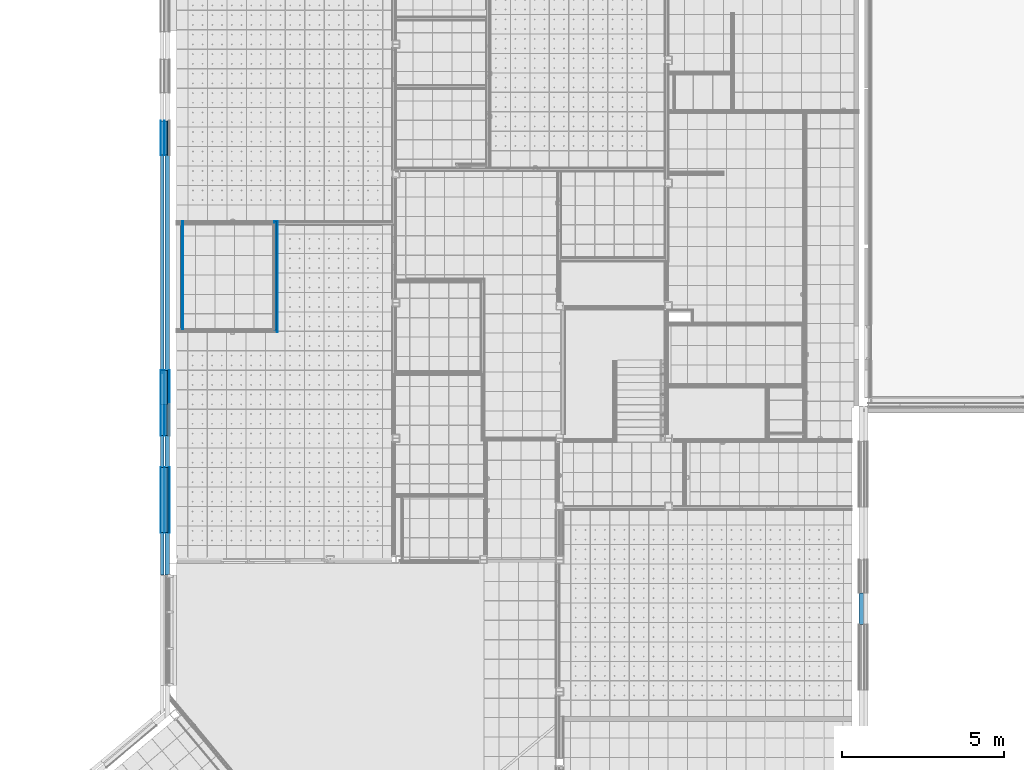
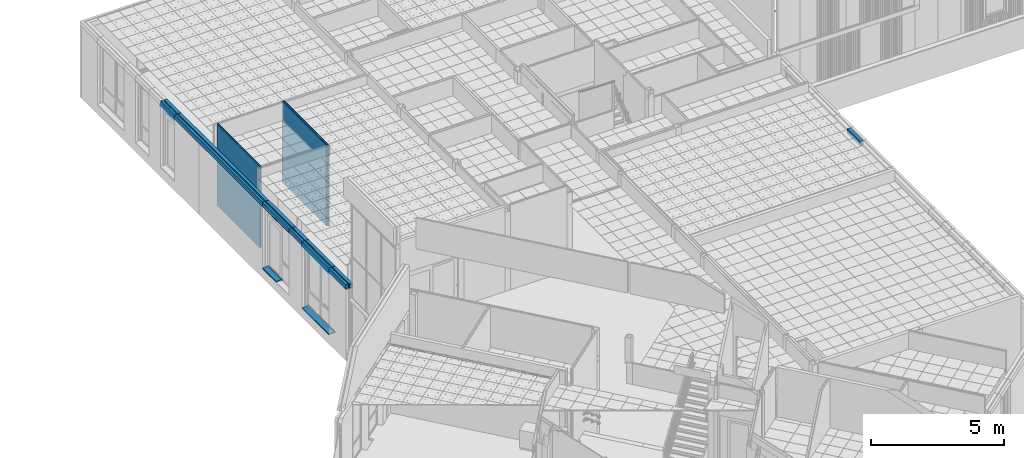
# One storey, part 75 of 338: 37 building element parts, 11 elements without a shape of their own.
"""IFC2X3 building model written with IfcOpenShell, lengths in millimetres."""

import ifcopenshell
import ifcopenshell.guid

model = None  # the IFC model being written
_history = None  # IfcOwnerHistory: only IFC2X3 demands one
_inside = {}  # id of a spatial element -> (the spatial element, [elements in it])
_under = {}  # id of a project, library or spatial element -> (it, [spatial elements below it])
_declared = {}  # id of a project -> (the project, [libraries it declares])
_typed = {}  # id of a type object -> (the type object, [elements of that type])
_made_of = {}  # id of a material, layer set ... -> (it, [elements and type objects made of it])


def new_model(schema):
    """Start an empty IFC model of exactly this schema.

    Asked for "IFC4X3", IfcOpenShell would pick the latest addendum, in which some entities
    have other attributes; the version numbers below select the first issue.
    IFC2X3 requires an IfcOwnerHistory on every rooted entity: one is made here for all.
    """
    global model, _history
    if schema == "IFC4X3":
        model = ifcopenshell.file(schema_version=(4, 3, 0, 0))
    else:
        model = ifcopenshell.file(schema=schema)
    _inside.clear()
    _under.clear()
    _declared.clear()
    _typed.clear()
    _made_of.clear()
    _history = None
    if model.schema == "IFC2X3":
        org = make("IfcOrganization", Name="unknown")
        user = make(
            "IfcPersonAndOrganization",
            ThePerson=make("IfcPerson", FamilyName="unknown"),
            TheOrganization=org,
        )
        app = make(
            "IfcApplication",
            ApplicationDeveloper=org,
            Version="unknown",
            ApplicationFullName="unknown",
            ApplicationIdentifier="unknown",
        )
        _history = make(
            "IfcOwnerHistory",
            OwningUser=user,
            OwningApplication=app,
            ChangeAction="ADDED",
            CreationDate=0,
        )
    return model


def make(cls, **values):
    """One entity of the class cls with the attributes given. An attribute that is None is left unset."""
    return model.create_entity(
        cls, **{name: value for name, value in values.items() if value is not None}
    )


def entity(cls, *values):
    """Any entity or typed value of the class cls, its attributes in the order of the schema. None: left unset."""
    e = model.create_entity(cls)
    for i, value in enumerate(values):
        if value is not None:
            e[i] = value
    return e


def rooted(cls, **values):
    """An entity with a GlobalId (a new one), such as an element, a storey or a relation."""
    return make(cls, GlobalId=ifcopenshell.guid.new(), OwnerHistory=_history, **values)


def si_unit(unit_type, name, prefix=None):
    """IfcSIUnit, for example si_unit("LENGTHUNIT", "METRE", prefix="MILLI")."""
    return make("IfcSIUnit", UnitType=unit_type, Prefix=prefix, Name=name)


def converted_unit(unit_type, name, factor, base, dimensions=None, offset=None):
    """IfcConversionBasedUnit, such as the inch: factor (a typed value) times the base unit."""
    return make(
        "IfcConversionBasedUnit"
        if offset is None
        else "IfcConversionBasedUnitWithOffset",
        ConversionOffset=offset,
        Dimensions=None
        if dimensions is None
        else entity("IfcDimensionalExponents", *dimensions),
        UnitType=unit_type,
        Name=name,
        ConversionFactor=make(
            "IfcMeasureWithUnit", ValueComponent=factor, UnitComponent=base
        ),
    )


def derived_unit(unit_type, elements):
    """IfcDerivedUnit: a product of units, each with its exponent."""
    return make(
        "IfcDerivedUnit",
        Elements=[
            make("IfcDerivedUnitElement", Unit=unit, Exponent=power)
            for unit, power in elements
        ],
        UnitType=unit_type,
    )


def money_unit(currency):
    """IfcMonetaryUnit."""
    return make("IfcMonetaryUnit", Currency=currency)


def assignment(units):
    """IfcUnitAssignment: the units of a project."""
    return None if units is None else make("IfcUnitAssignment", Units=units)


def point(xyz):
    """IfcCartesianPoint."""
    return None if xyz is None else make("IfcCartesianPoint", Coordinates=xyz)


def direction(xyz):
    """IfcDirection."""
    return None if xyz is None else make("IfcDirection", DirectionRatios=xyz)


def frame(location, z_axis=None, x_axis=None):
    """IfcAxis2Placement3D, a coordinate frame: its origin and axes. An axis left out is left unset."""
    return make(
        "IfcAxis2Placement3D",
        Location=point(location),
        Axis=direction(z_axis),
        RefDirection=direction(x_axis),
    )


def origin_with_axes():
    """The frame at (0, 0, 0) with the z axis (0, 0, 1) and the x axis (1, 0, 0) written out."""
    return frame((0.0, 0.0, 0.0), z_axis=(0.0, 0.0, 1.0), x_axis=(1.0, 0.0, 0.0))


def place(relative_to, where):
    """IfcLocalPlacement: puts the frame where relative to a parent placement (None: the world)."""
    return make(
        "IfcLocalPlacement", PlacementRelTo=relative_to, RelativePlacement=where
    )


def context(
    kind, dimensions, precision=None, world=None, true_north=None, identifier=None
):
    """IfcGeometricRepresentationContext, for example the 3D "Model" context."""
    return make(
        "IfcGeometricRepresentationContext",
        ContextIdentifier=identifier,
        ContextType=kind,
        CoordinateSpaceDimension=dimensions,
        Precision=precision,
        WorldCoordinateSystem=world,
        TrueNorth=true_north,
    )


def subcontext(parent, identifier, kind, view, scale=None):
    """IfcGeometricRepresentationSubContext, for example "Body" below "Model"."""
    return make(
        "IfcGeometricRepresentationSubContext",
        ContextIdentifier=identifier,
        ContextType=kind,
        ParentContext=parent,
        TargetScale=scale,
        TargetView=view,
    )


def project(units=None, contexts=None):
    """IfcProject with its units and contexts."""
    return rooted(
        "IfcProject",
        Name="project",
        RepresentationContexts=contexts,
        UnitsInContext=assignment(units),
    )


def spatial(cls, under=None, at=None, **own):
    """A site, building, storey or space (cls), placed at a placement, below another one or the project."""
    s = rooted(cls, ObjectPlacement=at, **own)
    if under is not None:
        _under.setdefault(under.id(), (under, []))[1].append(s)
    return s


def faces_of(points, faces, orient=None, outer=None):
    """IfcFace entities. A face is a list of loops; a loop is a list of indices into points, from 0.

    orient and outer hold one flag for each loop. By default every Orientation is true, the
    first loop of a face is its IfcFaceOuterBound and the others are IfcFaceBound.
    """
    made = []
    for i, loops in enumerate(faces):
        bounds = []
        for j, loop in enumerate(loops):
            is_outer = j == 0 if outer is None else outer[i][j]
            bounds.append(
                make(
                    "IfcFaceOuterBound" if is_outer else "IfcFaceBound",
                    Bound=make("IfcPolyLoop", Polygon=[points[k] for k in loop]),
                    Orientation=True if orient is None else orient[i][j],
                )
            )
        made.append(make("IfcFace", Bounds=bounds))
    return made


def faceted_brep(points, faces, orient=None, outer=None, voids=None):
    """IfcFacetedBrep: a solid bounded by flat faces; with voids (closed shells), ...WithVoids."""
    shared = [point(p) for p in points]
    hull = make("IfcClosedShell", CfsFaces=faces_of(shared, faces, orient, outer))
    if voids is None:
        return make("IfcFacetedBrep", Outer=hull)
    return make(
        "IfcFacetedBrepWithVoids",
        Outer=hull,
        Voids=[
            make(cls, CfsFaces=faces_of(shared, fs, o, b)) for cls, fs, o, b in voids
        ],
    )


def shape(context_of_items, identifier, shape_type, items):
    """IfcShapeRepresentation: the items that make up one representation, for example the "Body"."""
    return make(
        "IfcShapeRepresentation",
        ContextOfItems=context_of_items,
        RepresentationIdentifier=identifier,
        RepresentationType=shape_type,
        Items=items,
    )


def material(Name=None, Category=None):
    """IfcMaterial."""
    return make("IfcMaterial", Name=Name, Category=Category)


def made_of(thing, what):
    """Note that an element or type object is made of a material, layer set ...; save() writes the relation."""
    if what is not None:
        _made_of.setdefault(what.id(), (what, []))[1].append(thing)
    return thing


def type_object(cls, material=None, **own):
    """A type object (cls), such as IfcWallType, which elements share."""
    return made_of(rooted(cls, **own), material)


def element(
    cls,
    number,
    at=None,
    inside=None,
    cuts=None,
    type_object=None,
    material=None,
    context=None,
    identifier="Body",
    shape_type=None,
    held_by="IfcProductDefinitionShape",
    body=None,
    shapes=None,
    **own,
):
    """One element of the class cls, such as IfcWall. Its Tag is "e" and its number.

    at: its placement. inside: the storey or other place that contains it. cuts: it is an
    opening in that element (IfcRelVoidsElement). A single representation is given by context,
    identifier, shape_type and body (its items); several are given by shapes. held_by: the class
    of the entity that holds the representations. save() writes the other relations.
    """
    e = rooted(cls, Tag="e%d" % number, ObjectPlacement=at, **own)
    if body is not None:
        shapes = [shape(context, identifier, shape_type, body)]
    if shapes is not None:
        e.Representation = make(held_by, Representations=shapes)
    if inside is not None:
        _inside.setdefault(inside.id(), (inside, []))[1].append(e)
    if cuts is not None:
        rooted(
            "IfcRelVoidsElement", RelatingBuildingElement=cuts, RelatedOpeningElement=e
        )
    if type_object is not None:
        _typed.setdefault(type_object.id(), (type_object, []))[1].append(e)
    return made_of(e, material)


def aggregate(whole, parts):
    """IfcRelAggregates: a whole, such as a stair, and the parts it consists of."""
    return rooted("IfcRelAggregates", RelatingObject=whole, RelatedObjects=parts)


def save(model, path):
    """Write the relations noted so far, then the file.

    IfcRelAggregates (storeys below a building ...), IfcRelContainedInSpatialStructure (elements
    in a storey), IfcRelDefinesByType, IfcRelAssociatesMaterial and IfcRelDeclares: one each for
    every whole, place, type object, material and project.
    """
    for whole, parts in _under.values():
        aggregate(whole, parts)
    for where, things in _inside.values():
        rooted(
            "IfcRelContainedInSpatialStructure",
            RelatedElements=things,
            RelatingStructure=where,
        )
    for kind, things in _typed.values():
        rooted("IfcRelDefinesByType", RelatedObjects=things, RelatingType=kind)
    for what, things in _made_of.values():
        rooted("IfcRelAssociatesMaterial", RelatedObjects=things, RelatingMaterial=what)
    for by, libraries in _declared.values():
        rooted("IfcRelDeclares", RelatingContext=by, RelatedDefinitions=libraries)
    model.write(path)


model = new_model("IFC2X3")

# Units and contexts
model_context = context("Model", 3, precision=0.01, world=origin_with_axes(), true_north=direction((0.0, 1.0)))
plan_context = context("Plan", 3, precision=0.01, world=origin_with_axes(), true_north=direction((0.0, 1.0)))
body_context = subcontext(model_context, "Body", "Model", "MODEL_VIEW")
ifc_project = project(units=[si_unit("LENGTHUNIT", "METRE", prefix="MILLI"), si_unit("AREAUNIT", "SQUARE_METRE"), si_unit("VOLUMEUNIT", "CUBIC_METRE"), converted_unit("PLANEANGLEUNIT", "DEGREE", entity("IfcPlaneAngleMeasure", 0.0174532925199), si_unit("PLANEANGLEUNIT", "RADIAN"), dimensions=[0, 0, 0, 0, 0, 0, 0]), money_unit("EUR"), converted_unit("TIMEUNIT", "Year", entity("IfcTimeMeasure", 31556926.0), si_unit("TIMEUNIT", "SECOND"), dimensions=[0, 0, 1, 0, 0, 0, 0]), si_unit("MASSUNIT", "GRAM", prefix="KILO"), si_unit("THERMODYNAMICTEMPERATUREUNIT", "DEGREE_CELSIUS"), si_unit("LUMINOUSINTENSITYUNIT", "LUMEN"), si_unit("ENERGYUNIT", "JOULE", prefix="MEGA"), derived_unit("THERMALCONDUCTANCEUNIT", [(si_unit("POWERUNIT", "WATT"), 1), (si_unit("LENGTHUNIT", "METRE"), -1), (si_unit("THERMODYNAMICTEMPERATUREUNIT", "KELVIN"), -1)]), derived_unit("SPECIFICHEATCAPACITYUNIT", [(si_unit("ENERGYUNIT", "JOULE"), 1), (si_unit("MASSUNIT", "GRAM", prefix="KILO"), -1), (si_unit("THERMODYNAMICTEMPERATUREUNIT", "KELVIN"), -1)]), derived_unit("MASSDENSITYUNIT", [(si_unit("MASSUNIT", "GRAM", prefix="KILO"), 1), (si_unit("VOLUMEUNIT", "CUBIC_METRE"), -1)])], contexts=[model_context, plan_context])

# Site, building, storey
site_placement = place(None, origin_with_axes())
site = spatial("IfcSite", under=ifc_project, at=site_placement, Name="Fortuinstraat Woensdrecht", CompositionType="ELEMENT")
building_placement = place(site_placement, origin_with_axes())
building = spatial("IfcBuilding", under=site, at=building_placement, Name="IKC Fortuna", CompositionType="ELEMENT")
storey_placement = place(building_placement, origin_with_axes())
storey = spatial("IfcBuildingStorey", under=building, at=storey_placement, Name="00 begane grond", CompositionType="ELEMENT", Elevation=0.0)

# Wall, building element parts
wall_type_1 = type_object("IfcWallType", Name="MS100 2.50.2A 100", PredefinedType="NOTDEFINED")
wall_1_placement = place(storey_placement, frame((16919.5342231, 23182.5465112, -90.0), z_axis=(0.0, 0.0, 1.0), x_axis=(0.0, 1.0, 0.0)))
wall_1 = element("IfcWall", 1, at=wall_1_placement, inside=storey, type_object=wall_type_1, Name="22_Wand_Binnenwand")
ifc_material_1 = material(Name="Gipsplaat")
building_element_part_1_placement = place(wall_1_placement, origin_with_axes())
building_element_part_1 = element("IfcBuildingElementPart", 2, at=building_element_part_1_placement, material=ifc_material_1, Name="Gipsplaat", context=body_context, shape_type="Brep", body=[
    faceted_brep([(3424.56451548, 87.5, 3740.0), (3424.56451548, 100.0, 3740.0), (100.0, 100.0, 3740.0), (100.0, 87.5, 3740.0), (3424.56451548, 87.5, 0.0), (3424.56451548, 100.0, 0.0), (100.0, 100.0, 0.0), (100.0, 87.5, 0.0)], [[[0, 1, 2, 3]], [[0, 4, 5, 1]], [[1, 5, 6, 2]], [[3, 2, 6, 7]], [[4, 0, 3, 7]], [[5, 4, 7, 6]]]),
])
building_element_part_2_placement = place(wall_1_placement, origin_with_axes())
building_element_part_2 = element("IfcBuildingElementPart", 3, at=building_element_part_2_placement, material=ifc_material_1, Name="Gipsplaat", context=body_context, shape_type="Brep", body=[
    faceted_brep([(3424.56451548, 75.0, 3740.0), (3424.56451548, 87.5, 3740.0), (87.5, 87.5, 3740.0), (87.5, 75.0, 3740.0), (3424.56451548, 75.0, 0.0), (3424.56451548, 87.5, 0.0), (87.5, 87.5, 0.0), (87.5, 75.0, 0.0)], [[[0, 1, 2, 3]], [[0, 4, 5, 1]], [[1, 5, 6, 2]], [[3, 2, 6, 7]], [[4, 0, 3, 7]], [[5, 4, 7, 6]]]),
])
ifc_material_2 = material(Name="Isolatie - Steenwol LSW")
building_element_part_3_placement = place(wall_1_placement, origin_with_axes())
building_element_part_3 = element("IfcBuildingElementPart", 4, at=building_element_part_3_placement, material=ifc_material_2, Name="Isolatie - Steenwol LSW", context=body_context, shape_type="Brep", body=[
    faceted_brep([(3424.56451548, 25.0, 3740.0), (3424.56451548, 75.0, 3740.0), (75.0, 75.0, 3740.0), (75.0, 25.0, 3740.0), (3424.56451548, 25.0, 0.0), (3424.56451548, 75.0, 0.0), (75.0, 75.0, 0.0), (75.0, 25.0, 0.0)], [[[0, 1, 2, 3]], [[0, 4, 5, 1]], [[1, 5, 6, 2]], [[3, 2, 6, 7]], [[4, 0, 3, 7]], [[5, 4, 7, 6]]]),
])
building_element_part_4_placement = place(wall_1_placement, origin_with_axes())
building_element_part_4 = element("IfcBuildingElementPart", 5, at=building_element_part_4_placement, material=ifc_material_1, Name="Gipsplaat", context=body_context, shape_type="Brep", body=[
    faceted_brep([(3424.56451548, 12.5, 3740.0), (3424.56451548, 25.0, 3740.0), (25.0, 25.0, 3740.0), (25.0, 12.5, 3740.0), (3424.56451548, 12.5, 0.0), (3424.56451548, 25.0, 0.0), (25.0, 25.0, 0.0), (25.0, 12.5, 0.0)], [[[0, 1, 2, 3]], [[0, 4, 5, 1]], [[1, 5, 6, 2]], [[3, 2, 6, 7]], [[4, 0, 3, 7]], [[5, 4, 7, 6]]]),
])
building_element_part_5_placement = place(wall_1_placement, origin_with_axes())
building_element_part_5 = element("IfcBuildingElementPart", 6, at=building_element_part_5_placement, material=ifc_material_1, Name="Gipsplaat", context=body_context, shape_type="Brep", body=[
    faceted_brep([(3424.56451548, 0.0, 3740.0), (3424.56451548, 12.5, 3740.0), (12.5, 12.5, 3740.0), (12.5, 0.0, 3740.0), (3424.56451548, 0.0, 0.0), (3424.56451548, 12.5, 0.0), (12.5, 12.5, 0.0), (12.5, 0.0, 0.0)], [[[0, 1, 2, 3]], [[0, 4, 5, 1]], [[1, 5, 6, 2]], [[3, 2, 6, 7]], [[4, 0, 3, 7]], [[5, 4, 7, 6]]]),
])
aggregate(wall_1, [building_element_part_1, building_element_part_2, building_element_part_3, building_element_part_4, building_element_part_5])

# Covering, building element part
covering_type_1 = type_object("IfcCoveringType", Name="41 Rollaag 280 x 210", PredefinedType="NOTDEFINED")
covering_1_placement = place(storey_placement, frame((34973.4270641, 15162.1816378, 2800.0), z_axis=(0.0, 0.0, 1.0), x_axis=(0.0, -1.0, 0.0)))
covering_1 = element("IfcCovering", 7, at=covering_1_placement, inside=storey, type_object=covering_type_1, Name="41_Afwerking_Rollaag", PredefinedType="NOTDEFINED")
ifc_material_3 = material(Name="ALG - ISOLATIE")
building_element_part_6_placement = place(covering_1_placement, origin_with_axes())
building_element_part_6 = element("IfcBuildingElementPart", 8, at=building_element_part_6_placement, material=ifc_material_3, Name="ALG - ISOLATIE", context=body_context, shape_type="Brep", body=[
    faceted_brep([(980.0, 0.0, 0.0), (980.0, -140.0, 0.0), (0.0, -140.0, 0.0), (0.0, 0.0, 0.0), (980.0, 0.0, 210.0), (980.0, -140.0, 210.0), (0.0, -140.0, 210.0), (0.0, 0.0, 210.0)], [[[0, 1, 2, 3]], [[0, 4, 5, 1]], [[1, 5, 6, 2]], [[3, 2, 6, 7]], [[4, 0, 3, 7]], [[5, 4, 7, 6]]]),
])
aggregate(covering_1, [building_element_part_6])

# Covering, building element parts
covering_type_2 = type_object("IfcCoveringType", Name="41 Latei MW rollaag 280 x 227", PredefinedType="NOTDEFINED")
covering_2_placement = place(storey_placement, frame((13455.4349765, 28644.2965884, 2800.0), z_axis=(0.0, 0.0, 1.0), x_axis=(0.0, 1.0, 0.0)))
covering_2 = element("IfcCovering", 9, at=covering_2_placement, inside=storey, type_object=covering_type_2, Name="41_Afwerking_Latei + rollaag", PredefinedType="NOTDEFINED")
ifc_material_4 = material(Name="Metaal - Staal C")
building_element_part_7_placement = place(covering_2_placement, origin_with_axes())
building_element_part_7 = element("IfcBuildingElementPart", 10, at=building_element_part_7_placement, material=ifc_material_4, Name="Metaal - Staal C", context=body_context, shape_type="Brep", body=[
    faceted_brep([(0.0, 128.589936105, -2.59580461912), (1062.0, 128.589936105, -2.59580461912), (1062.0, 136.0, -4.07767729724), (0.0, 136.0, -4.07767729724), (1062.0, 130.000000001, -6.00000000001), (0.0, 130.000000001, -6.00000000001), (1062.0, 130.000000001, -6.95689290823), (1062.0, 135.215535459, -8.0), (0.0, 135.215535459, -8.0), (0.0, 130.000000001, -6.95689290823)], [[[0, 1, 2, 3]], [[4, 1, 0, 5]], [[4, 6, 7, 2, 1]], [[3, 2, 7, 8]], [[5, 0, 3, 8, 9]], [[6, 4, 5, 9]], [[6, 9, 8, 7]]]),
    faceted_brep([(1062.0, 30.0000000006, 106.999999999), (1062.0, 30.0000000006, 112.580611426), (1062.0, 20.8284271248, 121.828427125), (1062.0, 18.0000000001, 119.0), (0.0, 30.0000000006, 112.580611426), (0.0, 30.0000000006, 106.999999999), (0.0, 20.8284271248, 121.828427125), (0.0, 18.0000000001, 119.0)], [[[0, 1, 2, 3]], [[4, 1, 0, 5]], [[1, 4, 6, 2]], [[7, 3, 2, 6]], [[5, 0, 3, 7]], [[4, 5, 7, 6]]]),
])
ifc_material_5 = material(Name="Steen - Baksteen Accent Rollaag")
building_element_part_8_placement = place(covering_2_placement, origin_with_axes())
building_element_part_8 = element("IfcBuildingElementPart", 11, at=building_element_part_8_placement, material=ifc_material_5, Name="Steen - Baksteen Accent Rollaag", context=body_context, shape_type="Brep", body=[
    faceted_brep([(0.0, 40.0000000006, 12.0), (1062.0, 40.0000000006, 12.0), (1062.0, 40.0, 210.0), (0.0, 40.0, 210.0), (1062.0, 43.5147186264, 3.51471862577), (0.0, 43.5147186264, 3.51471862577), (1062.0, 52.0000000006, 0.0), (1062.0, 115.609685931, 0.0), (1062.0, 140.0, 0.0), (1062.0, 140.0, 210.0), (0.0, 140.0, 210.0), (0.0, 140.0, 0.0), (0.0, 115.609685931, 0.0), (0.0, 52.0000000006, 0.0)], [[[0, 1, 2, 3]], [[4, 1, 0, 5]], [[4, 6, 7, 8, 9, 2, 1]], [[3, 2, 9, 10]], [[5, 0, 3, 10, 11, 12, 13]], [[6, 4, 5, 13]], [[6, 13, 12, 7]], [[11, 8, 7, 12]], [[10, 9, 8, 11]]]),
])
ifc_material_6 = material(Name="Metaal - Staal AFW")
building_element_part_9_placement = place(covering_2_placement, origin_with_axes())
building_element_part_9 = element("IfcBuildingElementPart", 12, at=building_element_part_9_placement, material=ifc_material_6, Name="Metaal - Staal AFW", context=body_context, shape_type="Brep", body=[
    faceted_brep([(1062.0, 30.0000000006, 0.0), (1062.0, 30.0000000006, 4.0), (1062.0, -58.0, 4.0), (1062.0, -58.0, 0.0), (0.0, 30.0000000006, 4.0), (0.0, 30.0000000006, 0.0), (0.0, -58.0, 4.0), (0.0, -58.0, 0.0)], [[[0, 1, 2, 3]], [[4, 1, 0, 5]], [[1, 4, 6, 2]], [[7, 3, 2, 6]], [[5, 0, 3, 7]], [[4, 5, 7, 6]]]),
])
building_element_part_10_placement = place(covering_2_placement, origin_with_axes())
building_element_part_10 = element("IfcBuildingElementPart", 13, at=building_element_part_10_placement, material=ifc_material_3, Name="ALG - ISOLATIE", context=body_context, shape_type="Brep", body=[
    faceted_brep([(1062.0, -140.0, 53.0), (1062.0, -140.0, 210.0), (0.0, -140.0, 210.0), (0.0, -140.0, 53.0), (1062.0, -83.9999988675, 53.0000013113), (1062.0, 0.0, 53.0), (1062.0, 0.0, 210.0), (0.0, 0.0, 210.0), (0.0, 0.0, 53.0), (0.0, -83.9999988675, 53.0000013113)], [[[0, 1, 2, 3]], [[0, 4, 5, 6, 1]], [[1, 6, 7, 2]], [[3, 2, 7, 8, 9]], [[4, 0, 3, 9]], [[5, 4, 9, 8]], [[6, 5, 8, 7]]]),
])
ifc_material_7 = material(Name="Hout AFW")
building_element_part_11_placement = place(covering_2_placement, origin_with_axes())
building_element_part_11 = element("IfcBuildingElementPart", 14, at=building_element_part_11_placement, material=ifc_material_7, Name="Hout AFW", context=body_context, shape_type="Brep", body=[
    faceted_brep([(1062.0, -127.999998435, 53.0000013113), (1062.0, -83.9999988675, 53.0000013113), (0.0, -83.9999988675, 53.0000013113), (0.0, -127.999998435, 53.0000013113), (1062.0, -127.999998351, -1.28576260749e-07), (1062.0, -127.999998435, -17.0), (1062.0, -83.9999988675, -17.0), (0.0, -83.9999988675, -17.0), (0.0, -127.999998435, -17.0), (0.0, -127.999998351, -1.28576260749e-07)], [[[0, 1, 2, 3]], [[0, 4, 5, 6, 1]], [[1, 6, 7, 2]], [[3, 2, 7, 8, 9]], [[4, 0, 3, 9]], [[5, 4, 9, 8]], [[6, 5, 8, 7]]]),
])
aggregate(covering_2, [building_element_part_7, building_element_part_8, building_element_part_9, building_element_part_10, building_element_part_11])

# Wall, building element parts
wall_type_2 = type_object("IfcWallType", Name="MS75 50.2A 75", PredefinedType="NOTDEFINED")
wall_2_placement = place(storey_placement, frame((14009.4349765, 23182.5465112, -90.0), z_axis=(0.0, 0.0, 1.0), x_axis=(0.0, 1.0, 0.0)))
wall_2 = element("IfcWall", 15, at=wall_2_placement, inside=storey, type_object=wall_type_2, Name="22_Wand_Binnenwand")
building_element_part_12_placement = place(wall_2_placement, origin_with_axes())
building_element_part_12 = element("IfcBuildingElementPart", 16, at=building_element_part_12_placement, material=ifc_material_2, Name="Isolatie - Steenwol LSW", context=body_context, shape_type="Brep", body=[
    faceted_brep([(3324.56451548, 25.0, 0.0), (100.0, 25.0, 0.0), (100.0, 75.0, 0.0), (3324.56451548, 75.0, 0.0), (3324.56451548, 25.0, 3740.0), (100.0, 25.0, 3740.0), (100.0, 75.0, 3740.0), (3324.56451548, 75.0, 3740.0)], [[[0, 1, 2, 3]], [[4, 5, 1, 0]], [[2, 1, 5, 6]], [[3, 2, 6, 7]], [[3, 7, 4, 0]], [[7, 6, 5, 4]]]),
])
building_element_part_13_placement = place(wall_2_placement, origin_with_axes())
building_element_part_13 = element("IfcBuildingElementPart", 17, at=building_element_part_13_placement, material=ifc_material_1, Name="Gipsplaat", context=body_context, shape_type="Brep", body=[
    faceted_brep([(3424.56451548, 25.0, 0.0), (3424.56451548, 12.5, 0.0), (100.0, 12.5, 0.0), (100.0, 25.0, 0.0), (3424.56451548, 25.0, 3740.0), (3424.56451548, 12.5, 3740.0), (100.0, 12.5, 3740.0), (100.0, 25.0, 3740.0)], [[[0, 1, 2, 3]], [[0, 4, 5, 1]], [[1, 5, 6, 2]], [[3, 2, 6, 7]], [[4, 0, 3, 7]], [[5, 4, 7, 6]]]),
])
building_element_part_14_placement = place(wall_2_placement, origin_with_axes())
building_element_part_14 = element("IfcBuildingElementPart", 18, at=building_element_part_14_placement, material=ifc_material_1, Name="Gipsplaat", context=body_context, shape_type="Brep", body=[
    faceted_brep([(3424.56451548, 12.5, 0.0), (3424.56451548, 0.0, 0.0), (100.0, 0.0, 0.0), (100.0, 12.5, 0.0), (3424.56451548, 12.5, 3740.0), (3424.56451548, 0.0, 3740.0), (100.0, 0.0, 3740.0), (100.0, 12.5, 3740.0)], [[[0, 1, 2, 3]], [[0, 4, 5, 1]], [[1, 5, 6, 2]], [[3, 2, 6, 7]], [[4, 0, 3, 7]], [[5, 4, 7, 6]]]),
])
aggregate(wall_2, [building_element_part_12, building_element_part_13, building_element_part_14])

# Covering, building element parts
covering_3_placement = place(storey_placement, frame((13455.4349765, 22012.2767012, 2800.0), z_axis=(0.0, 0.0, 1.0), x_axis=(0.0, 1.0, 0.0)))
covering_3 = element("IfcCovering", 19, at=covering_3_placement, inside=storey, type_object=covering_type_1, Name="41_Afwerking_Rollaag", PredefinedType="NOTDEFINED")
building_element_part_15_placement = place(covering_3_placement, origin_with_axes())
building_element_part_15 = element("IfcBuildingElementPart", 20, at=building_element_part_15_placement, material=ifc_material_5, Name="Steen - Baksteen Accent Rollaag", context=body_context, shape_type="Brep", body=[
    faceted_brep([(6494.19766612, 40.0, 0.0), (6494.19766612, 40.0000000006, 12.0), (6632.01988716, 40.0000000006, 12.0), (6632.01988716, 40.0, 210.0), (0.0, 40.0, 210.0), (0.0, 40.0, 0.0), (6494.19766612, 52.0000000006, 0.0), (6494.19766612, 43.5147186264, 3.51471862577), (6632.01988716, 43.5147186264, 3.51471862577), (6632.01988716, 52.0000000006, 0.0), (6632.01988716, 140.0, 0.0), (6632.01988716, 140.0, 210.0), (0.0, 140.0, 210.0), (0.0, 140.0, 0.0)], [[[0, 1, 2, 3, 4, 5]], [[1, 0, 6, 7]], [[8, 2, 1, 7]], [[8, 9, 10, 11, 3, 2]], [[4, 3, 11, 12]], [[13, 5, 4, 12]], [[6, 0, 5, 13, 10, 9]], [[9, 8, 7, 6]], [[12, 11, 10, 13]]]),
])
building_element_part_16_placement = place(covering_3_placement, origin_with_axes())
building_element_part_16 = element("IfcBuildingElementPart", 21, at=building_element_part_16_placement, material=ifc_material_3, Name="ALG - ISOLATIE", context=body_context, shape_type="Brep", body=[
    faceted_brep([(6632.01988716, 0.0, 0.0), (6632.01988716, -140.0, 0.0), (0.0, -140.0, 0.0), (0.0, 0.0, 0.0), (6632.01988716, 0.0, 210.0), (6632.01988716, -140.0, 210.0), (0.0, -140.0, 210.0), (0.0, 0.0, 210.0)], [[[0, 1, 2, 3]], [[0, 4, 5, 1]], [[1, 5, 6, 2]], [[3, 2, 6, 7]], [[4, 0, 3, 7]], [[5, 4, 7, 6]]]),
])
aggregate(covering_3, [building_element_part_15, building_element_part_16])

covering_4_placement = place(storey_placement, frame((13455.4349765, 20002.2767012, 2800.0), z_axis=(0.0, 0.0, 1.0), x_axis=(0.0, 1.0, 0.0)))
covering_4 = element("IfcCovering", 22, at=covering_4_placement, inside=storey, type_object=covering_type_2, Name="41_Afwerking_Latei + rollaag", PredefinedType="NOTDEFINED")
building_element_part_17_placement = place(covering_4_placement, origin_with_axes())
building_element_part_17 = element("IfcBuildingElementPart", 23, at=building_element_part_17_placement, material=ifc_material_4, Name="Metaal - Staal C", context=body_context, shape_type="Brep", body=[
    faceted_brep([(1928.19766612, 30.0000000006, 112.580611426), (0.0, 30.0000000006, 112.580611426), (0.0, 20.8284271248, 121.828427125), (2010.0, 20.8284271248, 121.828427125), (2010.0, 36.0000000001, 106.530733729), (1928.19766612, 36.0000000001, 106.530733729), (1928.19766612, 30.0000000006, 106.999999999), (0.0, 30.0000000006, 106.999999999), (0.0, 18.0000000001, 119.0), (2010.0, 18.0000000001, 119.0), (2010.0, 115.215535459, -4.0), (2010.0, 135.215535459, -8.0), (2010.0, 136.0, -4.07767729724), (2010.0, 115.609685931, 0.0), (2010.0, 40.0, 0.0), (2010.0, 37.1715728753, 1.17157287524), (2010.0, 36.0000000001, 3.99999999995), (2010.0, 32.0, 105.0), (2010.0, 32.0, 4.0), (2010.0, 32.0, 0.0), (2010.0, 33.1715728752, -2.82842712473), (2010.0, 36.0, -4.0), (1928.19766612, 36.0000000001, 3.99999999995), (1928.19766612, 37.1715728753, 1.17157287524), (1928.19766612, 40.0, 0.0), (1928.19766612, 52.0000000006, 0.0), (1928.19766612, 115.609685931, 0.0), (1928.19766612, 128.589936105, -2.59580461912), (1928.19766612, 130.000000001, -6.00000000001), (1928.19766612, 130.000000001, -6.95689290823), (1928.19766612, 115.215535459, -4.0), (1928.19766612, 36.0, -4.0), (1928.19766612, 33.1715728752, -2.82842712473), (1928.19766612, 32.0, 0.0), (1928.19766612, 32.0, 4.0), (1928.19766612, 32.0, 105.0), (0.0, 130.000000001, -6.95689290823), (0.0, 135.215535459, -8.0), (0.0, 136.0, -4.07767729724), (0.0, 128.589936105, -2.59580461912), (0.0, 130.000000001, -6.00000000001)], [[[0, 1, 2, 3, 4, 5]], [[1, 0, 6, 7]], [[1, 7, 8, 2]], [[8, 9, 3, 2]], [[10, 11, 12, 13, 14, 15, 16, 4, 3, 9, 17, 18, 19, 20, 21]], [[22, 5, 4, 16]], [[0, 5, 22, 23, 24, 25, 26, 27, 28, 29, 30, 31, 32, 33, 34, 35, 6]], [[6, 35, 17, 9, 8, 7]], [[29, 36, 37, 11, 10, 30]], [[38, 12, 11, 37]], [[27, 26, 13, 12, 38, 39]], [[25, 24, 14, 13, 26]], [[24, 23, 15, 14]], [[23, 22, 16, 15]], [[35, 34, 18, 17]], [[34, 33, 19, 18]], [[33, 32, 20, 19]], [[32, 31, 21, 20]], [[31, 30, 10, 21]], [[27, 39, 40, 28]], [[36, 29, 28, 40]], [[40, 39, 38, 37, 36]]]),
])
building_element_part_18_placement = place(covering_4_placement, origin_with_axes())
building_element_part_18 = element("IfcBuildingElementPart", 24, at=building_element_part_18_placement, material=ifc_material_5, Name="Steen - Baksteen Accent Rollaag", context=body_context, shape_type="Brep", body=[
    faceted_brep([(1928.19766612, 40.0000000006, 12.0), (1928.19766612, 40.0, 0.0), (2010.0, 40.0, 0.0), (2010.0, 40.0, 210.0), (0.0, 40.0, 210.0), (0.0, 40.0000000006, 12.0), (1928.19766612, 43.5147186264, 3.51471862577), (1928.19766612, 52.0000000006, 0.0), (0.0, 52.0000000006, 0.0), (0.0, 115.609685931, 0.0), (2010.0, 115.609685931, 0.0), (2010.0, 140.0, 0.0), (2010.0, 140.0, 210.0), (0.0, 140.0, 210.0), (0.0, 43.5147186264, 3.51471862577), (0.0, 140.0, 0.0)], [[[0, 1, 2, 3, 4, 5]], [[1, 0, 6, 7]], [[7, 8, 9, 10, 2, 1]], [[11, 12, 3, 2, 10]], [[4, 3, 12, 13]], [[14, 5, 4, 13, 15, 9, 8]], [[0, 5, 14, 6]], [[14, 8, 7, 6]], [[15, 11, 10, 9]], [[13, 12, 11, 15]]]),
])
building_element_part_19_placement = place(covering_4_placement, origin_with_axes())
building_element_part_19 = element("IfcBuildingElementPart", 25, at=building_element_part_19_placement, material=ifc_material_6, Name="Metaal - Staal AFW", context=body_context, shape_type="Brep", body=[
    faceted_brep([(1928.19766612, 30.0000000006, 4.00000000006), (0.0, 30.0000000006, 4.0), (0.0, -58.0, 4.0), (2010.0, -58.0, 4.0), (2010.0, 32.0, 4.0), (1928.19766612, 32.0, 4.0), (1928.19766612, 30.0000000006, 0.0), (0.0, 30.0000000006, 0.0), (0.0, -58.0, 0.0), (2010.0, -58.0, 0.0), (2010.0, 32.0, 0.0), (1928.19766612, 32.0, 0.0)], [[[0, 1, 2, 3, 4, 5]], [[1, 0, 6, 7]], [[1, 7, 8, 2]], [[8, 9, 3, 2]], [[10, 4, 3, 9]], [[11, 5, 4, 10]], [[0, 5, 11, 6]], [[6, 11, 10, 9, 8, 7]]]),
])
building_element_part_20_placement = place(covering_4_placement, origin_with_axes())
building_element_part_20 = element("IfcBuildingElementPart", 26, at=building_element_part_20_placement, material=ifc_material_3, Name="ALG - ISOLATIE", context=body_context, shape_type="Brep", body=[
    faceted_brep([(2010.0, -140.0, 53.0), (2010.0, -140.0, 210.0), (0.0, -140.0, 210.0), (0.0, -140.0, 53.0), (2010.0, -83.9999988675, 53.0000013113), (2010.0, 0.0, 53.0), (2010.0, 0.0, 210.0), (0.0, 0.0, 210.0), (0.0, 0.0, 53.0), (0.0, -83.9999988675, 53.0000013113)], [[[0, 1, 2, 3]], [[0, 4, 5, 6, 1]], [[1, 6, 7, 2]], [[3, 2, 7, 8, 9]], [[4, 0, 3, 9]], [[5, 4, 9, 8]], [[6, 5, 8, 7]]]),
])
building_element_part_21_placement = place(covering_4_placement, origin_with_axes())
building_element_part_21 = element("IfcBuildingElementPart", 27, at=building_element_part_21_placement, material=ifc_material_7, Name="Hout AFW", context=body_context, shape_type="Brep", body=[
    faceted_brep([(2010.0, -127.999998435, 53.0000013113), (2010.0, -83.9999988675, 53.0000013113), (0.0, -83.9999988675, 53.0000013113), (0.0, -127.999998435, 53.0000013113), (2010.0, -127.999998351, -1.28576260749e-07), (2010.0, -127.999998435, -17.0), (2010.0, -83.9999988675, -17.0), (0.0, -83.9999988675, -17.0), (0.0, -127.999998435, -17.0), (0.0, -127.999998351, -1.28576260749e-07)], [[[0, 1, 2, 3]], [[0, 4, 5, 6, 1]], [[1, 6, 7, 2]], [[3, 2, 7, 8, 9]], [[4, 0, 3, 9]], [[5, 4, 9, 8]], [[6, 5, 8, 7]]]),
])
ifc_material_8 = material(Name="Isolatie - PUR gespoten")
building_element_part_22_placement = place(covering_4_placement, origin_with_axes())
building_element_part_22 = element("IfcBuildingElementPart", 28, at=building_element_part_22_placement, material=ifc_material_8, Name="Isolatie - PUR gespoten", context=body_context, shape_type="Brep", body=[
    faceted_brep([(2010.0, -139.999999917, 53.0000002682), (2010.0, -127.999998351, 53.0000013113), (0.0, -127.999998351, 53.0000013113), (0.0, -139.999999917, 53.0000002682), (2010.0, -139.999999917, -1.28576260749e-07), (2010.0, -127.999998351, -1.28576260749e-07), (0.0, -127.999998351, -1.28576260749e-07), (0.0, -139.999999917, -1.28576260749e-07)], [[[0, 1, 2, 3]], [[0, 4, 5, 1]], [[1, 5, 6, 2]], [[3, 2, 6, 7]], [[4, 0, 3, 7]], [[5, 4, 7, 6]]]),
])
aggregate(covering_4, [building_element_part_17, building_element_part_18, building_element_part_19, building_element_part_20, building_element_part_21, building_element_part_22])

covering_5_placement = place(storey_placement, frame((13455.4349765, 17012.2768571, 2800.0), z_axis=(0.0, 0.0, 1.0), x_axis=(0.0, 1.0, 0.0)))
covering_5 = element("IfcCovering", 29, at=covering_5_placement, inside=storey, type_object=covering_type_2, Name="41_Afwerking_Latei + rollaag", PredefinedType="NOTDEFINED")
building_element_part_23_placement = place(covering_5_placement, origin_with_axes())
building_element_part_23 = element("IfcBuildingElementPart", 30, at=building_element_part_23_placement, material=ifc_material_4, Name="Metaal - Staal C", context=body_context, shape_type="Brep", body=[
    faceted_brep([(0.0, 128.589936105, -2.59580461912), (2010.0, 128.589936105, -2.59580461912), (2010.0, 136.0, -4.07767729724), (0.0, 136.0, -4.07767729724), (2010.0, 130.000000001, -6.00000000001), (0.0, 130.000000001, -6.00000000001), (2010.0, 130.000000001, -6.95689290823), (2010.0, 135.215535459, -8.0), (0.0, 135.215535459, -8.0), (0.0, 130.000000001, -6.95689290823)], [[[0, 1, 2, 3]], [[4, 1, 0, 5]], [[4, 6, 7, 2, 1]], [[3, 2, 7, 8]], [[5, 0, 3, 8, 9]], [[6, 4, 5, 9]], [[6, 9, 8, 7]]]),
    faceted_brep([(2010.0, 30.0000000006, 106.999999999), (2010.0, 30.0000000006, 112.580611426), (2010.0, 20.8284271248, 121.828427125), (2010.0, 18.0000000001, 119.0), (0.0, 30.0000000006, 112.580611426), (0.0, 30.0000000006, 106.999999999), (0.0, 20.8284271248, 121.828427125), (0.0, 18.0000000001, 119.0)], [[[0, 1, 2, 3]], [[4, 1, 0, 5]], [[1, 4, 6, 2]], [[7, 3, 2, 6]], [[5, 0, 3, 7]], [[4, 5, 7, 6]]]),
])
building_element_part_24_placement = place(covering_5_placement, origin_with_axes())
building_element_part_24 = element("IfcBuildingElementPart", 31, at=building_element_part_24_placement, material=ifc_material_5, Name="Steen - Baksteen Accent Rollaag", context=body_context, shape_type="Brep", body=[
    faceted_brep([(0.0, 40.0000000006, 12.0), (2010.0, 40.0000000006, 12.0), (2010.0, 40.0, 210.0), (0.0, 40.0, 210.0), (2010.0, 43.5147186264, 3.51471862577), (0.0, 43.5147186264, 3.51471862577), (2010.0, 52.0000000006, 0.0), (2010.0, 115.609685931, 0.0), (2010.0, 140.0, 0.0), (2010.0, 140.0, 210.0), (0.0, 140.0, 210.0), (0.0, 140.0, 0.0), (0.0, 115.609685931, 0.0), (0.0, 52.0000000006, 0.0)], [[[0, 1, 2, 3]], [[4, 1, 0, 5]], [[4, 6, 7, 8, 9, 2, 1]], [[3, 2, 9, 10]], [[5, 0, 3, 10, 11, 12, 13]], [[6, 4, 5, 13]], [[6, 13, 12, 7]], [[11, 8, 7, 12]], [[10, 9, 8, 11]]]),
])
building_element_part_25_placement = place(covering_5_placement, origin_with_axes())
building_element_part_25 = element("IfcBuildingElementPart", 32, at=building_element_part_25_placement, material=ifc_material_6, Name="Metaal - Staal AFW", context=body_context, shape_type="Brep", body=[
    faceted_brep([(2010.0, 30.0000000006, 0.0), (2010.0, 30.0000000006, 4.0), (2010.0, -58.0, 4.0), (2010.0, -58.0, 0.0), (0.0, 30.0000000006, 4.0), (0.0, 30.0000000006, 0.0), (0.0, -58.0, 4.0), (0.0, -58.0, 0.0)], [[[0, 1, 2, 3]], [[4, 1, 0, 5]], [[1, 4, 6, 2]], [[7, 3, 2, 6]], [[5, 0, 3, 7]], [[4, 5, 7, 6]]]),
])
building_element_part_26_placement = place(covering_5_placement, origin_with_axes())
building_element_part_26 = element("IfcBuildingElementPart", 33, at=building_element_part_26_placement, material=ifc_material_3, Name="ALG - ISOLATIE", context=body_context, shape_type="Brep", body=[
    faceted_brep([(2010.0, -140.0, 53.0), (2010.0, -140.0, 210.0), (0.0, -140.0, 210.0), (0.0, -140.0, 53.0), (2010.0, -83.9999988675, 53.0000013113), (2010.0, 0.0, 53.0), (2010.0, 0.0, 210.0), (0.0, 0.0, 210.0), (0.0, 0.0, 53.0), (0.0, -83.9999988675, 53.0000013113)], [[[0, 1, 2, 3]], [[0, 4, 5, 6, 1]], [[1, 6, 7, 2]], [[3, 2, 7, 8, 9]], [[4, 0, 3, 9]], [[5, 4, 9, 8]], [[6, 5, 8, 7]]]),
])
building_element_part_27_placement = place(covering_5_placement, origin_with_axes())
building_element_part_27 = element("IfcBuildingElementPart", 34, at=building_element_part_27_placement, material=ifc_material_7, Name="Hout AFW", context=body_context, shape_type="Brep", body=[
    faceted_brep([(2010.0, -127.999998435, 53.0000013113), (2010.0, -83.9999988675, 53.0000013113), (0.0, -83.9999988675, 53.0000013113), (0.0, -127.999998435, 53.0000013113), (2010.0, -127.999998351, -1.28576260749e-07), (2010.0, -127.999998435, -17.0), (2010.0, -83.9999988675, -17.0), (0.0, -83.9999988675, -17.0), (0.0, -127.999998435, -17.0), (0.0, -127.999998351, -1.28576260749e-07)], [[[0, 1, 2, 3]], [[0, 4, 5, 6, 1]], [[1, 6, 7, 2]], [[3, 2, 7, 8, 9]], [[4, 0, 3, 9]], [[5, 4, 9, 8]], [[6, 5, 8, 7]]]),
])
building_element_part_28_placement = place(covering_5_placement, origin_with_axes())
building_element_part_28 = element("IfcBuildingElementPart", 35, at=building_element_part_28_placement, material=ifc_material_8, Name="Isolatie - PUR gespoten", context=body_context, shape_type="Brep", body=[
    faceted_brep([(2010.0, -139.999999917, 53.0000002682), (2010.0, -127.999998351, 53.0000013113), (0.0, -127.999998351, 53.0000013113), (0.0, -139.999999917, 53.0000002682), (2010.0, -139.999999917, -1.28576260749e-07), (2010.0, -127.999998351, -1.28576260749e-07), (0.0, -127.999998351, -1.28576260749e-07), (0.0, -139.999999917, -1.28576260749e-07)], [[[0, 1, 2, 3]], [[0, 4, 5, 1]], [[1, 5, 6, 2]], [[3, 2, 6, 7]], [[4, 0, 3, 7]], [[5, 4, 7, 6]]]),
])
aggregate(covering_5, [building_element_part_23, building_element_part_24, building_element_part_25, building_element_part_26, building_element_part_27, building_element_part_28])

covering_6_placement = place(storey_placement, frame((13455.4349765, 19022.2768571, 2800.0), z_axis=(0.0, 0.0, 1.0), x_axis=(0.0, 1.0, 0.0)))
covering_6 = element("IfcCovering", 36, at=covering_6_placement, inside=storey, type_object=covering_type_1, Name="41_Afwerking_Rollaag", PredefinedType="NOTDEFINED")
building_element_part_29_placement = place(covering_6_placement, origin_with_axes())
building_element_part_29 = element("IfcBuildingElementPart", 37, at=building_element_part_29_placement, material=ifc_material_5, Name="Steen - Baksteen Accent Rollaag", context=body_context, shape_type="Brep", body=[
    faceted_brep([(622.197510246, 40.0, 0.0), (622.197510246, 40.0000000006, 12.0), (979.999844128, 40.0000000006, 12.0), (979.999844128, 40.0, 210.0), (0.0, 40.0, 210.0), (0.0, 40.0000000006, 12.0), (138.197510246, 40.0000000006, 12.0), (138.197510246, 40.0, 0.0), (622.197510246, 52.0000000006, 0.0), (622.197510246, 43.5147186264, 3.51471862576), (979.999844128, 43.5147186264, 3.51471862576), (979.999844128, 52.0000000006, 0.0), (979.999844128, 140.0, 0.0), (979.999844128, 140.0, 210.0), (0.0, 140.0, 210.0), (0.0, 43.5147186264, 3.51471862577), (0.0, 140.0, 0.0), (0.0, 52.0000000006, 0.0), (138.197510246, 43.5147186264, 3.51471862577), (138.197510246, 52.0000000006, 0.0)], [[[0, 1, 2, 3, 4, 5, 6, 7]], [[1, 0, 8, 9]], [[10, 2, 1, 9]], [[10, 11, 12, 13, 3, 2]], [[4, 3, 13, 14]], [[15, 5, 4, 14, 16, 17]], [[6, 5, 15, 18]], [[7, 6, 18, 19]], [[8, 0, 7, 19, 17, 16, 12, 11]], [[11, 10, 9, 8]], [[14, 13, 12, 16]], [[15, 17, 19, 18]]]),
])
building_element_part_30_placement = place(covering_6_placement, origin_with_axes())
building_element_part_30 = element("IfcBuildingElementPart", 38, at=building_element_part_30_placement, material=ifc_material_3, Name="ALG - ISOLATIE", context=body_context, shape_type="Brep", body=[
    faceted_brep([(979.999844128, 0.0, 0.0), (979.999844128, -140.0, 0.0), (0.0, -140.0, 0.0), (0.0, 0.0, 0.0), (979.999844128, 0.0, 210.0), (979.999844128, -140.0, 210.0), (0.0, -140.0, 210.0), (0.0, 0.0, 210.0)], [[[0, 1, 2, 3]], [[0, 4, 5, 1]], [[1, 5, 6, 2]], [[3, 2, 6, 7]], [[4, 0, 3, 7]], [[5, 4, 7, 6]]]),
])
aggregate(covering_6, [building_element_part_29, building_element_part_30])

covering_7_placement = place(storey_placement, frame((13455.4349765, 15702.2768159, 2800.0), z_axis=(0.0, 0.0, 1.0), x_axis=(0.0, 1.0, 0.0)))
covering_7 = element("IfcCovering", 39, at=covering_7_placement, inside=storey, type_object=covering_type_1, Name="41_Afwerking_Rollaag", PredefinedType="NOTDEFINED")
building_element_part_31_placement = place(covering_7_placement, origin_with_axes())
building_element_part_31 = element("IfcBuildingElementPart", 40, at=building_element_part_31_placement, material=ifc_material_5, Name="Steen - Baksteen Accent Rollaag", context=body_context, shape_type="Brep", body=[
    faceted_brep([(1171.75488107, 40.0, 0.0), (1171.75488107, 40.0000000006, 12.0), (1310.00004124, 40.0000000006, 12.0), (1310.00004124, 40.0, 210.0), (0.0, 40.0, 210.0), (0.0, 40.0, 0.0), (1171.75488107, 52.0000000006, 0.0), (1171.75488107, 43.5147186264, 3.51471862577), (1310.00004124, 43.5147186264, 3.51471862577), (1310.00004124, 52.0000000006, 0.0), (1310.00004124, 140.0, 0.0), (1310.00004124, 140.0, 210.0), (0.0, 140.0, 210.0), (0.0, 140.0, 0.0)], [[[0, 1, 2, 3, 4, 5]], [[1, 0, 6, 7]], [[8, 2, 1, 7]], [[8, 9, 10, 11, 3, 2]], [[4, 3, 11, 12]], [[13, 5, 4, 12]], [[6, 0, 5, 13, 10, 9]], [[9, 8, 7, 6]], [[12, 11, 10, 13]]]),
])
building_element_part_32_placement = place(covering_7_placement, origin_with_axes())
building_element_part_32 = element("IfcBuildingElementPart", 41, at=building_element_part_32_placement, material=ifc_material_3, Name="ALG - ISOLATIE", context=body_context, shape_type="Brep", body=[
    faceted_brep([(1310.00004124, 0.0, 0.0), (1310.00004124, -140.0, 0.0), (0.0, -140.0, 0.0), (0.0, 0.0, 0.0), (1310.00004124, 0.0, 210.0), (1310.00004124, -140.0, 210.0), (0.0, -140.0, 210.0), (0.0, 0.0, 210.0)], [[[0, 1, 2, 3]], [[0, 4, 5, 1]], [[1, 5, 6, 2]], [[3, 2, 6, 7]], [[4, 0, 3, 7]], [[5, 4, 7, 6]]]),
])
aggregate(covering_7, [building_element_part_31, building_element_part_32])

covering_type_3 = type_object("IfcCoveringType", Name="41 dorpel aan peil 280 x 75", PredefinedType="NOTDEFINED")
covering_8_placement = place(storey_placement, frame((13455.435258, 17012.2768571, -2.5), z_axis=(0.0, 0.0, 1.0), x_axis=(0.0, 1.0, 0.0)))
covering_8 = element("IfcCovering", 42, at=covering_8_placement, inside=storey, type_object=covering_type_3, Name="41_Afwerking_Dorpel", PredefinedType="NOTDEFINED")
ifc_material_9 = material(Name="Steen - Kunststeen")
building_element_part_33_placement = place(covering_8_placement, origin_with_axes())
building_element_part_33 = element("IfcBuildingElementPart", 43, at=building_element_part_33_placement, material=ifc_material_9, Name="Steen - Kunststeen", context=body_context, shape_type="Brep", body=[
    faceted_brep([(2010.0, 140.0, -39.7722078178), (2010.0, 140.0, -72.5), (0.0, 140.0, -72.5), (0.0, 140.0, -39.7722078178), (2010.0, -82.0, -19.5865456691), (2010.0, -82.0, 2.5), (2010.0, -92.0, 2.5), (2010.0, -92.0, -72.5), (0.0, -92.0, -72.5), (0.0, -92.0, 2.5), (0.0, -82.0, 2.5), (0.0, -82.0, -19.5865456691)], [[[0, 1, 2, 3]], [[0, 4, 5, 6, 7, 1]], [[1, 7, 8, 2]], [[3, 2, 8, 9, 10, 11]], [[4, 0, 3, 11]], [[5, 4, 11, 10]], [[6, 5, 10, 9]], [[7, 6, 9, 8]]]),
])
building_element_part_34_placement = place(covering_8_placement, origin_with_axes())
building_element_part_34 = element("IfcBuildingElementPart", 44, at=building_element_part_34_placement, material=ifc_material_7, Name="Hout AFW", context=body_context, shape_type="Brep", body=[
    faceted_brep([(2010.0, -92.0000008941, 2.49999865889), (2010.0, -92.0000008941, -72.5), (0.0, -92.0000008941, -72.5), (0.0, -92.0000008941, 2.49999865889), (2010.0, -130.0, 2.49999865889), (2010.0, -130.0, -72.5), (0.0, -130.0, -72.5), (0.0, -130.0, 2.49999865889)], [[[0, 1, 2, 3]], [[0, 4, 5, 1]], [[1, 5, 6, 2]], [[3, 2, 6, 7]], [[4, 0, 3, 7]], [[5, 4, 7, 6]]]),
])
building_element_part_35_placement = place(covering_8_placement, origin_with_axes())
building_element_part_35 = element("IfcBuildingElementPart", 45, at=building_element_part_35_placement, material=ifc_material_8, Name="Isolatie - PUR gespoten", context=body_context, shape_type="Brep", body=[
    faceted_brep([(2010.0, -129.999999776, -72.5), (2010.0, -139.999999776, -72.5), (0.0, -139.999999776, -72.5), (0.0, -129.999999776, -72.5), (2010.0, -129.999999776, 2.49999888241), (2010.0, -139.999999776, 2.5), (0.0, -139.999999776, 2.5), (0.0, -129.999999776, 2.49999888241)], [[[0, 1, 2, 3]], [[0, 4, 5, 1]], [[1, 5, 6, 2]], [[3, 2, 6, 7]], [[4, 0, 3, 7]], [[5, 4, 7, 6]]]),
])
aggregate(covering_8, [building_element_part_33, building_element_part_34, building_element_part_35])

covering_type_4 = type_object("IfcCoveringType", Name="41 dorpel d bi 280 x 95", PredefinedType="NOTDEFINED")
covering_9_placement = place(storey_placement, frame((13455.435258, 20969.2767012, -2.5), z_axis=(0.0, 0.0, 1.0), x_axis=(0.0, 1.0, 0.0)))
covering_9 = element("IfcCovering", 46, at=covering_9_placement, inside=storey, type_object=covering_type_4, Name="41_Afwerking_Waterslag", PredefinedType="NOTDEFINED")
building_element_part_36_placement = place(covering_9_placement, origin_with_axes())
building_element_part_36 = element("IfcBuildingElementPart", 47, at=building_element_part_36_placement, material=ifc_material_9, Name="Steen - Kunststeen", context=body_context, shape_type="Brep", body=[
    faceted_brep([(1043.0, 140.0, -17.1401037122), (1043.0, 140.0, -72.5), (0.0, 140.0, -72.5), (0.0, 140.0, -17.1401037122), (1043.0, -76.0, 2.5), (1043.0, -76.0, 22.5), (1043.0, -130.0, 22.5), (1043.0, -129.999999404, 2.49999821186), (1043.0, -130.0, -72.5), (0.0, -130.0, -72.5), (0.0, -129.999999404, 2.49999821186), (0.0, -130.0, 22.5), (0.0, -76.0, 22.5), (0.0, -76.0, 2.5)], [[[0, 1, 2, 3]], [[0, 4, 5, 6, 7, 8, 1]], [[1, 8, 9, 2]], [[3, 2, 9, 10, 11, 12, 13]], [[4, 0, 3, 13]], [[5, 4, 13, 12]], [[6, 5, 12, 11]], [[7, 6, 11, 10]], [[8, 7, 10, 9]]]),
])
building_element_part_37_placement = place(covering_9_placement, origin_with_axes())
building_element_part_37 = element("IfcBuildingElementPart", 48, at=building_element_part_37_placement, material=ifc_material_8, Name="Isolatie - PUR gespoten", context=body_context, shape_type="Brep", body=[
    faceted_brep([(1043.0, -140.0, 2.49999821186), (1043.0, -129.999999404, 2.49999821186), (0.0, -129.999999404, 2.49999821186), (0.0, -140.0, 2.49999821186), (1043.0, -140.0, -72.5), (1043.0, -129.999999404, -72.5), (0.0, -129.999999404, -72.5), (0.0, -140.0, -72.5)], [[[0, 1, 2, 3]], [[0, 4, 5, 1]], [[1, 5, 6, 2]], [[3, 2, 6, 7]], [[4, 0, 3, 7]], [[5, 4, 7, 6]]]),
])
aggregate(covering_9, [building_element_part_36, building_element_part_37])

save(model, "model.ifc")
